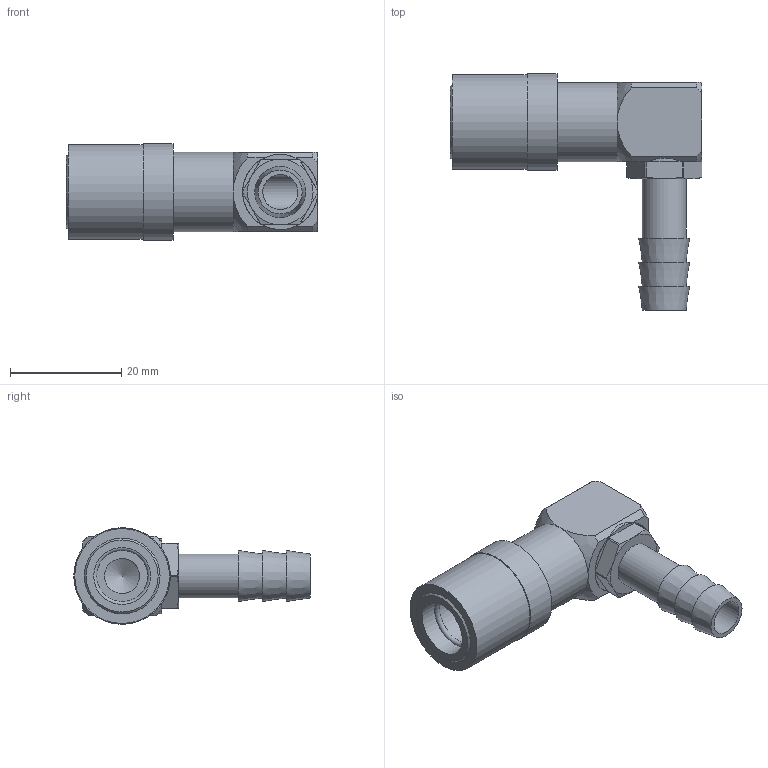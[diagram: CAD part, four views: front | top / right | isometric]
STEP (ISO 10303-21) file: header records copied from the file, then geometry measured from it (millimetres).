
FILE_DESCRIPTION(/* description */ ('STEP AP214'),/* implementation_level */ '2;1');
FILE_NAME(/* name */ 'JS-215-V',/* time_stamp */ '2024-12-19T08:41:08+01:00',/* author */ ('License CC BY-ND 4.0'),/* organization */ ('CADENAS'),/* preprocessor_version */ 'ST-DEVELOPER v19.3',/* originating_system */ 'PARTsolutions',/* authorisation */ ' ');
FILE_SCHEMA (('AP242_MANAGED_MODEL_BASED_3D_ENGINEERING_MIM_LF { 1 0 10303 442 3 1 4 }','AUTOMOTIVE_DESIGN {1 0 10303 214 3 1 1}'));
Length unit declared in the file: inch
Products named in the file (1): JS-215-V
Bounding box: 45.2 x 42.46 x 17.36 mm (x, y, z)
Volume: 7896.7 mm3; surface area: 5185.4 mm2
Topology: 1 solids, 1 shells, 61 faces, 144 edges, 93 vertices
Faces by surface type: plane 32, cone 11, cylinder 9, sphere 8, torus 1
Full cylindrical faces by diameter (mm): 6.299 x2, 7.874 x1, 10.211 x2, 13.485 x1, 14.224 x1, 17.018 x1, 17.358 x1
Entity records: 1718 total; most frequent: CARTESIAN_POINT 317, DIRECTION 312, ORIENTED_EDGE 248, AXIS2_PLACEMENT_3D 140, EDGE_CURVE 124, VERTEX_POINT 89, FACE_BOUND 87, EDGE_LOOP 86
